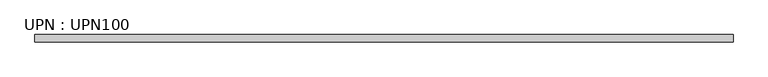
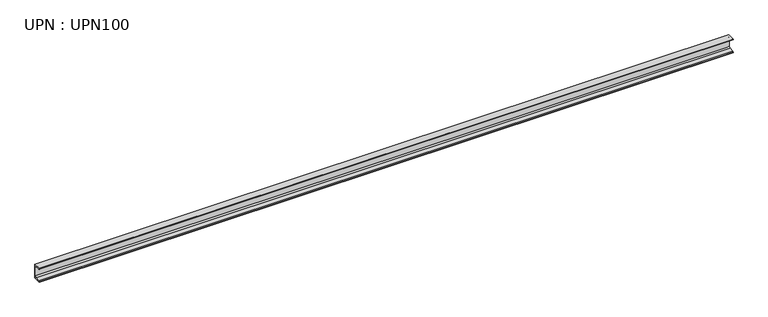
"""IFC4 building model written with IfcOpenShell, lengths in millimetres: beam geometry, UPN : UPN100."""

from ifc_helpers import new_model, si_unit, point, frame, frame_2d, origin, place, context, project, spatial, polyline, circle_curve, trimmed, segment, composite_curve, outline, extrude, source, transform, mapped, element, save


def upn_upn100_519bee6b(model_context):
    return source(origin(), model_context, "Body", "SweptSolid", [
        extrude(outline(composite_curve([segment(polyline([(15.5, 50.0), (15.5, -50.0), (-34.5, -50.0), (-34.5, -47.6529404)]), True, "CONTINUOUS"), segment(trimmed(circle_curve(frame_2d((-30.0, -47.6529404)), 4.5), [point((-34.5, -47.6529404))], [point((-30.3585465, -43.1672471))], False, "CARTESIAN"), True, "CONTINUOUS"), segment(polyline([(-30.3585465, -43.1672471), (1.6772545, -40.6065895)]), True, "CONTINUOUS"), segment(trimmed(circle_curve(frame_2d((1.0, -32.1336133)), 8.5), [point((1.6772545, -40.6065895))], [point((9.5, -32.1336133))], True, "CARTESIAN"), True, "CONTINUOUS"), segment(polyline([(9.5, -32.1336133), (9.5, 32.1336133)]), True, "CONTINUOUS"), segment(trimmed(circle_curve(frame_2d((1.0, 32.1336133)), 8.5), [point((9.5, 32.1336133))], [point((1.6772545, 40.6065895))], True, "CARTESIAN"), True, "CONTINUOUS"), segment(polyline([(1.6772545, 40.6065895), (-30.3585465, 43.1672471)]), True, "CONTINUOUS"), segment(trimmed(circle_curve(frame_2d((-30.0, 47.6529404)), 4.5), [point((-30.3585465, 43.1672471))], [point((-34.5, 47.6529404))], False, "CARTESIAN"), True, "CONTINUOUS"), segment(polyline([(-34.5, 47.6529404), (-34.5, 50.0), (15.5, 50.0)]), True, "CONTINUOUS")], self_intersect=False)), frame((-2332.5, 0.0, 0.0), z_axis=(1.0, 0.0, 0.0), x_axis=(0.0, 1.0, 0.0)), (0.0, 0.0, 1.0), 4797.5),
    ])


if __name__ == "__main__":
    model = new_model("IFC4")
    model_context = context("Model", 3, world=origin())
    ifc_project = project(units=[si_unit("LENGTHUNIT", "METRE", prefix="MILLI")], contexts=[model_context])
    site = spatial("IfcSite", under=ifc_project)
    building = spatial("IfcBuilding", under=site)
    placement = place(None, origin())
    upn_upn100_shape = upn_upn100_519bee6b(model_context)
    element("IfcBeam", 1, ObjectType="UPN : UPN100", at=placement, inside=building, context=model_context, shape_type="MappedRepresentation", body=[
        mapped(upn_upn100_shape, transform((0.0, 0.0, 0.0), x_axis=(1.0, 0.0, 0.0), y_axis=(0.0, 1.0, 0.0), z_axis=(0.0, 0.0, 1.0))),
    ])
    save(model, "model.ifc")
